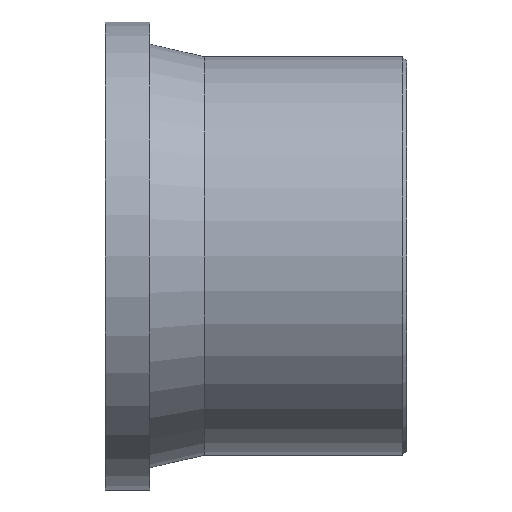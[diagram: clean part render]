
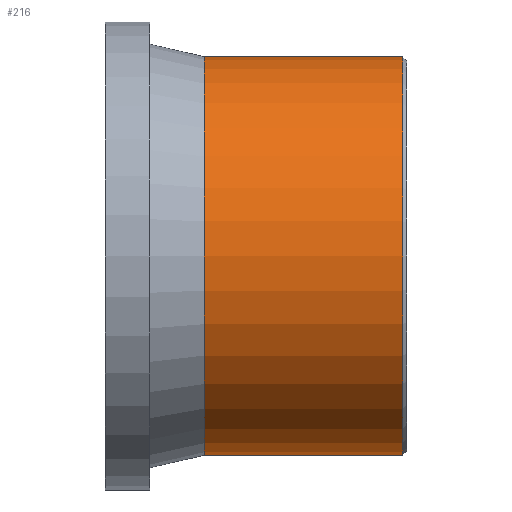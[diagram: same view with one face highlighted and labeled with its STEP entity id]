
A CAD part, front view. The second image highlights one B-rep face of the part: STEP entity #216.
In plain terms, the highlighted cylindrical face has radius 157.5 mm (diameter 315 mm), a full revolution.
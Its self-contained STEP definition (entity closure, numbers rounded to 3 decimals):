
#24=CYLINDRICAL_SURFACE('',#240,157.5);
#34=FACE_BOUND('',#76,.T.);
#54=FACE_OUTER_BOUND('',#75,.T.);
#75=EDGE_LOOP('',(#175));
#76=EDGE_LOOP('',(#176));
#113=CIRCLE('',#238,157.5);
#115=CIRCLE('',#241,157.5);
#133=VERTEX_POINT('',#361);
#135=VERTEX_POINT('',#366);
#153=EDGE_CURVE('',#133,#133,#113,.T.);
#155=EDGE_CURVE('',#135,#135,#115,.T.);
#175=ORIENTED_EDGE('',*,*,#155,.T.);
#176=ORIENTED_EDGE('',*,*,#153,.F.);
#216=ADVANCED_FACE('',(#54,#34),#24,.T.);
#238=AXIS2_PLACEMENT_3D('',#362,#281,#282);
#240=AXIS2_PLACEMENT_3D('',#365,#285,#286);
#241=AXIS2_PLACEMENT_3D('',#367,#287,#288);
#281=DIRECTION('center_axis',(1.,0.,0.));
#282=DIRECTION('ref_axis',(0.,-1.,0.));
#285=DIRECTION('center_axis',(1.,0.,0.));
#286=DIRECTION('ref_axis',(0.,1.,0.));
#287=DIRECTION('center_axis',(1.,0.,0.));
#288=DIRECTION('ref_axis',(0.,0.,-1.));
#361=CARTESIAN_POINT('',(-3.15,157.5,0.));
#362=CARTESIAN_POINT('Origin',(-3.15,0.,
0.));
#365=CARTESIAN_POINT('Origin',(-80.,0.,0.));
#366=CARTESIAN_POINT('',(-160.,157.5,0.));
#367=CARTESIAN_POINT('Origin',(-160.,0.,0.));
